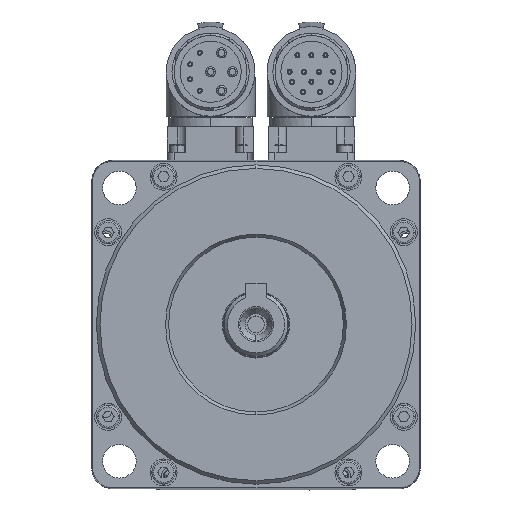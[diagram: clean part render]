
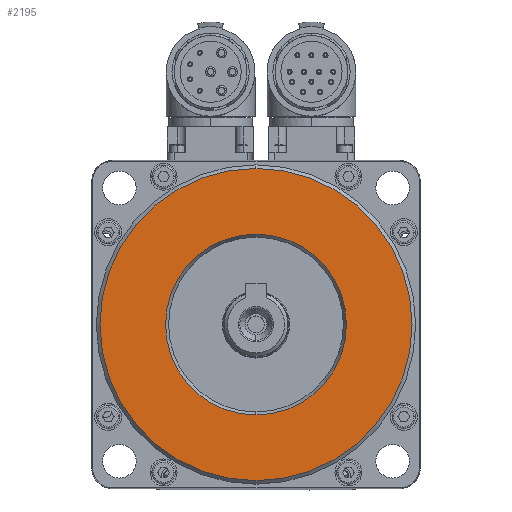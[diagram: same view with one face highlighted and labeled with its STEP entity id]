
A CAD part, top view. The second image highlights one B-rep face of the part: STEP entity #2195.
In plain terms, the highlighted planar face has unit normal (0, 0, 1).
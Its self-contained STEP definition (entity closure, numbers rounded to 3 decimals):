
#821=CARTESIAN_POINT('',(0.,0.,75.864));
#822=DIRECTION('',(0.,0.,1.));
#823=DIRECTION('',(0.,1.,0.));
#824=AXIS2_PLACEMENT_3D('',#821,#822,#823);
#826=CARTESIAN_POINT('',(0.,0.,75.864));
#827=DIRECTION('',(0.,0.,1.));
#828=DIRECTION('',(0.,-1.,0.));
#829=AXIS2_PLACEMENT_3D('',#826,#827,#828);
#831=CARTESIAN_POINT('',(0.,0.,75.864));
#832=DIRECTION('',(0.,0.,-1.));
#833=DIRECTION('',(0.,-1.,0.));
#834=AXIS2_PLACEMENT_3D('',#831,#832,#833);
#836=CARTESIAN_POINT('',(0.,0.,75.864));
#837=DIRECTION('',(0.,0.,-1.));
#838=DIRECTION('',(0.,1.,0.));
#839=AXIS2_PLACEMENT_3D('',#836,#837,#838);
#1186=CARTESIAN_POINT('',(0.,-26.908,75.864));
#1188=VERTEX_POINT('',#1186);
#1206=CARTESIAN_POINT('',(0.,-46.433,75.864));
#1207=CARTESIAN_POINT('',(0.,46.433,75.864));
#1208=VERTEX_POINT('',#1206);
#1209=VERTEX_POINT('',#1207);
#1234=CARTESIAN_POINT('',(0.,26.908,75.864));
#1235=VERTEX_POINT('',#1234);
#2180=CARTESIAN_POINT('',(0.,0.,75.864));
#2181=DIRECTION('',(0.,0.,-1.));
#2182=DIRECTION('',(0.,1.,0.));
#2183=AXIS2_PLACEMENT_3D('',#2180,#2181,#2182);
#2184=PLANE('',#2183);
#2185=ORIENTED_EDGE('',*,*,#2162,.F.);
#2186=ORIENTED_EDGE('',*,*,#2172,.F.);
#2187=EDGE_LOOP('',(#2185,#2186));
#2188=FACE_OUTER_BOUND('',#2187,.F.);
#2190=ORIENTED_EDGE('',*,*,#2189,.F.);
#2192=ORIENTED_EDGE('',*,*,#2191,.F.);
#2193=EDGE_LOOP('',(#2190,#2192));
#2194=FACE_BOUND('',#2193,.F.);
#2195=ADVANCED_FACE('',(#2188,#2194),#2184,.F.);
#825=CIRCLE('',#824,46.433);
#830=CIRCLE('',#829,46.433);
#835=CIRCLE('',#834,26.908);
#840=CIRCLE('',#839,26.908);
#2162=EDGE_CURVE('',#1209,#1208,#825,.T.);
#2172=EDGE_CURVE('',#1208,#1209,#830,.T.);
#2189=EDGE_CURVE('',#1188,#1235,#835,.T.);
#2191=EDGE_CURVE('',#1235,#1188,#840,.T.);
